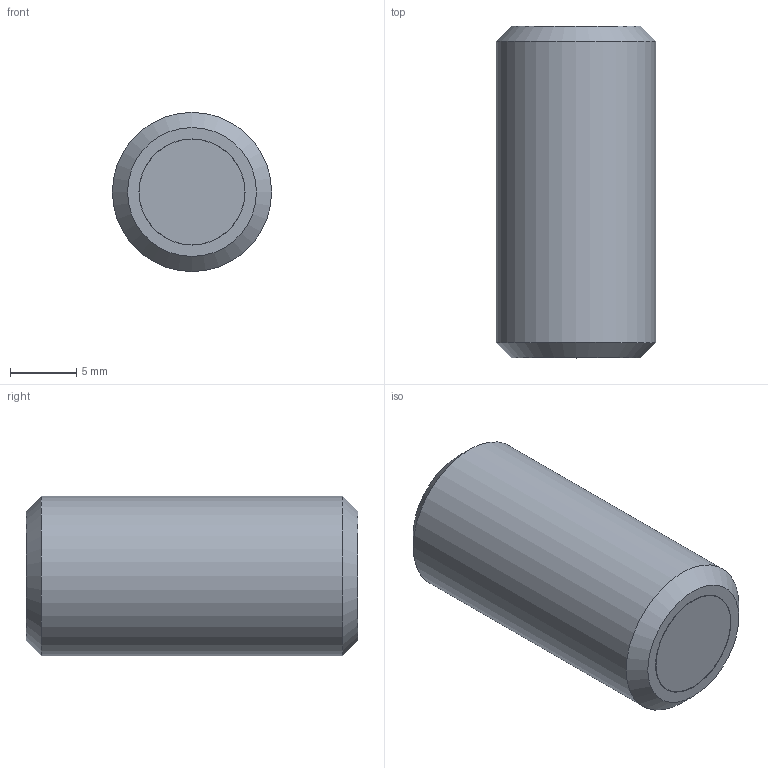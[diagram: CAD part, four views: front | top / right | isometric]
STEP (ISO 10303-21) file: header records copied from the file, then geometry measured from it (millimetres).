
FILE_DESCRIPTION(/* description */ ('STEP AP214'),/* implementation_level */ '2;1');
FILE_NAME(/* name */ 'Grub screw with retaining magnet GN 913.6-M12-25-ND',/* time_stamp */ '2023-10-03T11:27:15+02:00',/* author */ ('License CC BY-ND 4.0'),/* organization */ ('CADENAS'),/* preprocessor_version */ 'ST-DEVELOPER v19.3',/* originating_system */ 'PARTsolutions',/* authorisation */ ' ');
FILE_SCHEMA (('AUTOMOTIVE_DESIGN {1 0 10303 214 3 1 1}'));
Length unit declared in the file: millimetre
Products named in the file (1): Grub screw with retaining magnet GN 913.6-M12-25-ND
Bounding box: 12 x 25 x 12 mm (x, y, z)
Volume: 2585.8 mm3; surface area: 1238.9 mm2
Topology: 1 solids, 1 shells, 22 faces, 46 edges, 28 vertices
Faces by surface type: plane 16, cone 3, cylinder 3
Full cylindrical faces by diameter (mm): 7.96 x1, 8 x1, 12 x1
Entity records: 566 total; most frequent: DIRECTION 98, CARTESIAN_POINT 88, ORIENTED_EDGE 76, EDGE_CURVE 38, AXIS2_PLACEMENT_3D 37, FACE_BOUND 31, EDGE_LOOP 30, VERTEX_POINT 27
